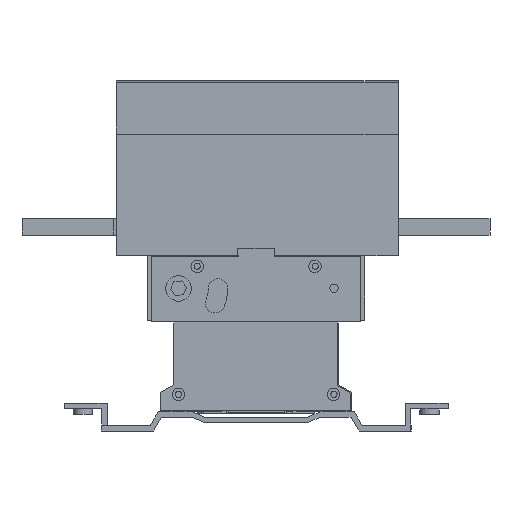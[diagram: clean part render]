
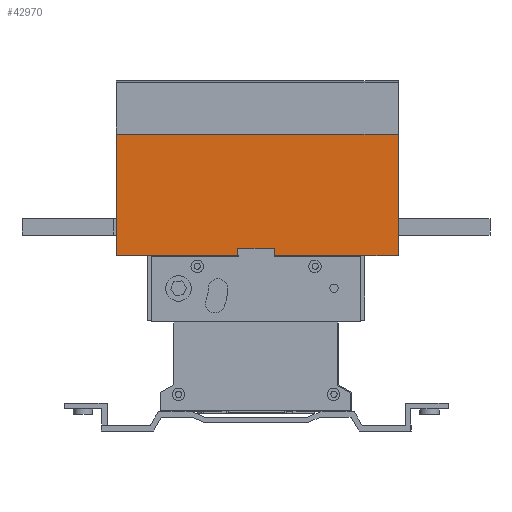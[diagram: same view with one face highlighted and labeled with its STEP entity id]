
A CAD part, left-side view. The second image highlights one B-rep face of the part: STEP entity #42970.
In plain terms, the highlighted planar face has unit normal (-1, 0, 0).
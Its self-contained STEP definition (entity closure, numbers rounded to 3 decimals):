
#12739=DIRECTION('',(0.,1.,0.));
#12740=VECTOR('',#12739,89.314);
#12741=CARTESIAN_POINT('',(20.,66.361,126.5));
#12742=LINE('',#12741,#12740);
#12907=DIRECTION('',(0.,1.,0.));
#12908=VECTOR('',#12907,87.725);
#12909=CARTESIAN_POINT('',(20.,182.275,126.5));
#12910=LINE('',#12909,#12908);
#15755=DIRECTION('',(0.,0.,-1.));
#15756=VECTOR('',#15755,5.15);
#15757=CARTESIAN_POINT('',(20.,155.675,131.65));
#15758=LINE('',#15757,#15756);
#15762=DIRECTION('',(0.,-1.,0.));
#15763=VECTOR('',#15762,26.6);
#15764=CARTESIAN_POINT('',(20.,182.275,131.65));
#15765=LINE('',#15764,#15763);
#15769=DIRECTION('',(0.,0.,1.));
#15770=VECTOR('',#15769,5.15);
#15771=CARTESIAN_POINT('',(20.,182.275,126.5));
#15772=LINE('',#15771,#15770);
#15776=DIRECTION('',(0.,1.,0.));
#15777=VECTOR('',#15776,203.639);
#15778=CARTESIAN_POINT('',(20.,66.361,214.5));
#15779=LINE('',#15778,#15777);
#15805=DIRECTION('',(0.,0.,1.));
#15806=VECTOR('',#15805,88.);
#15807=CARTESIAN_POINT('',(20.,270.,126.5));
#15808=LINE('',#15807,#15806);
#16471=DIRECTION('',(0.,0.,-1.));
#16472=VECTOR('',#16471,88.);
#16473=CARTESIAN_POINT('',(20.,66.361,214.5));
#16474=LINE('',#16473,#16472);
#22676=CARTESIAN_POINT('',(20.,182.275,131.65));
#22677=CARTESIAN_POINT('',(20.,155.675,131.65));
#22678=VERTEX_POINT('',#22676);
#22679=VERTEX_POINT('',#22677);
#22680=CARTESIAN_POINT('',(20.,182.275,126.5));
#22681=CARTESIAN_POINT('',(20.,270.,126.5));
#22682=VERTEX_POINT('',#22680);
#22683=VERTEX_POINT('',#22681);
#22688=CARTESIAN_POINT('',(20.,270.,214.5));
#22690=VERTEX_POINT('',#22688);
#22694=CARTESIAN_POINT('',(20.,66.361,214.5));
#22696=VERTEX_POINT('',#22694);
#22704=CARTESIAN_POINT('',(20.,66.361,126.5));
#22705=VERTEX_POINT('',#22704);
#23214=CARTESIAN_POINT('',(20.,155.675,126.5));
#23215=VERTEX_POINT('',#23214);
#42952=CARTESIAN_POINT('',(20.,0.,0.));
#42953=DIRECTION('',(-1.,0.,0.));
#42954=DIRECTION('',(0.,0.,1.));
#42955=AXIS2_PLACEMENT_3D('',#42952,#42953,#42954);
#42956=PLANE('',#42955);
#42957=ORIENTED_EDGE('',*,*,#40039,.T.);
#42958=ORIENTED_EDGE('',*,*,#42917,.F.);
#42959=ORIENTED_EDGE('',*,*,#42933,.F.);
#42960=ORIENTED_EDGE('',*,*,#42946,.F.);
#42961=ORIENTED_EDGE('',*,*,#40096,.T.);
#42963=ORIENTED_EDGE('',*,*,#42962,.T.);
#42965=ORIENTED_EDGE('',*,*,#42964,.F.);
#42967=ORIENTED_EDGE('',*,*,#42966,.T.);
#42968=EDGE_LOOP('',(#42957,#42958,#42959,#42960,#42961,#42963,#42965,#42967));
#42969=FACE_OUTER_BOUND('',#42968,.F.);
#40039=EDGE_CURVE('',#22705,#23215,#12742,.T.);
#40096=EDGE_CURVE('',#22682,#22683,#12910,.T.);
#42917=EDGE_CURVE('',#22679,#23215,#15758,.T.);
#42933=EDGE_CURVE('',#22678,#22679,#15765,.T.);
#42946=EDGE_CURVE('',#22682,#22678,#15772,.T.);
#42962=EDGE_CURVE('',#22683,#22690,#15808,.T.);
#42964=EDGE_CURVE('',#22696,#22690,#15779,.T.);
#42966=EDGE_CURVE('',#22696,#22705,#16474,.T.);
#42970=ADVANCED_FACE('',(#42969),#42956,.T.);
